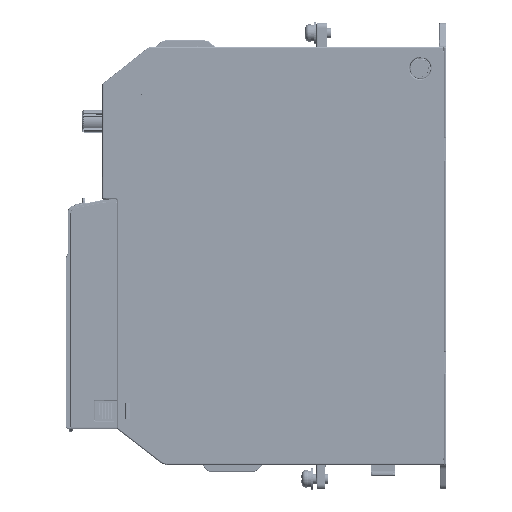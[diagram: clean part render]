
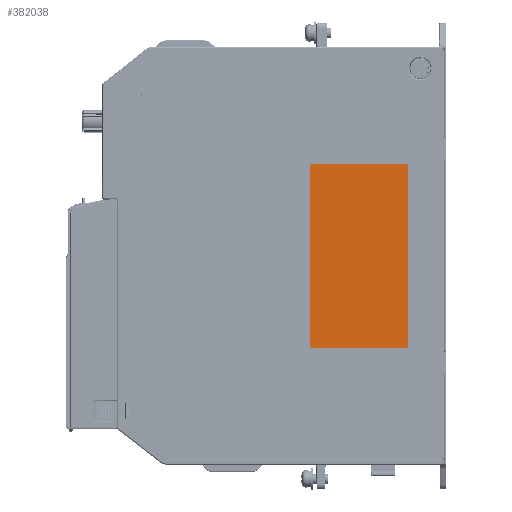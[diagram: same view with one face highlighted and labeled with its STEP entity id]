
A CAD part, top view. The second image highlights one B-rep face of the part: STEP entity #382038.
In plain terms, the highlighted planar face has unit normal (0, 0, -1).
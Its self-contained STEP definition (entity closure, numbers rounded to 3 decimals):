
#262454=CARTESIAN_POINT('',(108.326,131.503,
-0.513));
#262455=DIRECTION('',(0.,0.,1.));
#262456=DIRECTION('',(1.,0.,0.));
#262457=AXIS2_PLACEMENT_3D('',#262454,#262455,#262456);
#262459=CARTESIAN_POINT('',(70.326,131.503,
-0.513));
#262460=DIRECTION('',(0.,0.,1.));
#262461=DIRECTION('',(0.,1.,0.));
#262462=AXIS2_PLACEMENT_3D('',#262459,#262460,#262461);
#262464=CARTESIAN_POINT('',(70.326,58.503,
-0.513));
#262465=DIRECTION('',(0.,0.,1.));
#262466=DIRECTION('',(-1.,0.,0.));
#262467=AXIS2_PLACEMENT_3D('',#262464,#262465,#262466);
#262469=DIRECTION('',(1.,0.,0.));
#262470=VECTOR('',#262469,38.);
#262471=CARTESIAN_POINT('',(70.326,57.503,
-0.513));
#262472=LINE('',#262471,#262470);
#262473=CARTESIAN_POINT('',(108.326,58.503,
-0.513));
#262474=DIRECTION('',(0.,0.,1.));
#262475=DIRECTION('',(0.,-1.,0.));
#262476=AXIS2_PLACEMENT_3D('',#262473,#262474,#262475);
#262486=DIRECTION('',(0.,1.,0.));
#262487=VECTOR('',#262486,73.);
#262488=CARTESIAN_POINT('',(109.326,58.503,
-0.513));
#262489=LINE('',#262488,#262487);
#262498=DIRECTION('',(-1.,0.,0.));
#262499=VECTOR('',#262498,38.);
#262500=CARTESIAN_POINT('',(108.326,132.503,
-0.513));
#262501=LINE('',#262500,#262499);
#262510=DIRECTION('',(0.,-1.,0.));
#262511=VECTOR('',#262510,73.);
#262512=CARTESIAN_POINT('',(69.326,131.503,
-0.513));
#262513=LINE('',#262512,#262511);
#285501=CARTESIAN_POINT('',(108.326,57.503,
-0.513));
#285502=VERTEX_POINT('',#285501);
#285503=CARTESIAN_POINT('',(70.326,57.503,
-0.513));
#285504=VERTEX_POINT('',#285503);
#285505=CARTESIAN_POINT('',(109.326,58.503,
-0.513));
#285506=VERTEX_POINT('',#285505);
#285507=CARTESIAN_POINT('',(109.326,131.503,
-0.513));
#285508=CARTESIAN_POINT('',(108.326,132.503,
-0.513));
#285509=VERTEX_POINT('',#285507);
#285510=VERTEX_POINT('',#285508);
#285511=CARTESIAN_POINT('',(69.326,58.503,
-0.513));
#285512=VERTEX_POINT('',#285511);
#285513=CARTESIAN_POINT('',(69.326,131.503,
-0.513));
#285514=VERTEX_POINT('',#285513);
#285515=CARTESIAN_POINT('',(70.326,132.503,
-0.513));
#285516=VERTEX_POINT('',#285515);
#382017=CARTESIAN_POINT('',(89.326,95.003,
-0.513));
#382018=DIRECTION('',(0.,0.,1.));
#382019=DIRECTION('',(0.,1.,0.));
#382020=AXIS2_PLACEMENT_3D('',#382017,#382018,#382019);
#382021=PLANE('',#382020);
#382023=ORIENTED_EDGE('',*,*,#382022,.T.);
#382025=ORIENTED_EDGE('',*,*,#382024,.T.);
#382027=ORIENTED_EDGE('',*,*,#382026,.T.);
#382029=ORIENTED_EDGE('',*,*,#382028,.T.);
#382031=ORIENTED_EDGE('',*,*,#382030,.T.);
#382032=ORIENTED_EDGE('',*,*,#381995,.T.);
#382033=ORIENTED_EDGE('',*,*,#382008,.T.);
#382035=ORIENTED_EDGE('',*,*,#382034,.T.);
#382036=EDGE_LOOP('',(#382023,#382025,#382027,#382029,#382031,#382032,#382033,
#382035));
#382037=FACE_OUTER_BOUND('',#382036,.F.);
#382038=ADVANCED_FACE('',(#382037),#382021,.F.);
#262458=CIRCLE('',#262457,1.);
#262463=CIRCLE('',#262462,1.);
#262468=CIRCLE('',#262467,1.);
#262477=CIRCLE('',#262476,1.);
#381995=EDGE_CURVE('',#285504,#285502,#262472,.T.);
#382008=EDGE_CURVE('',#285502,#285506,#262477,.T.);
#382022=EDGE_CURVE('',#285509,#285510,#262458,.T.);
#382024=EDGE_CURVE('',#285510,#285516,#262501,.T.);
#382026=EDGE_CURVE('',#285516,#285514,#262463,.T.);
#382028=EDGE_CURVE('',#285514,#285512,#262513,.T.);
#382030=EDGE_CURVE('',#285512,#285504,#262468,.T.);
#382034=EDGE_CURVE('',#285506,#285509,#262489,.T.);
